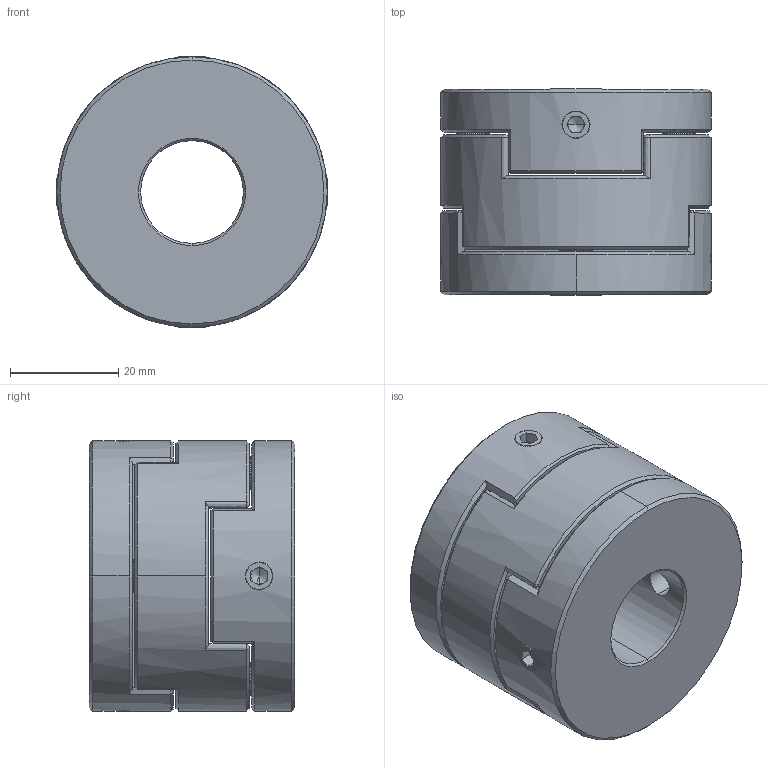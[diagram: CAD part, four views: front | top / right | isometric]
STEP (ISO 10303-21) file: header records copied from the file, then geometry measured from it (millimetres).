
FILE_DESCRIPTION (( 'STEP AP203' ), '1' );
FILE_NAME ('LZ-D-D50L38-19-22.STEP', '2021-10-30T05:52:15', ( '' ), ( '' ), 'SwSTEP 2.0', 'SolidWorks 2018', '' );
FILE_SCHEMA (( 'CONFIG_CONTROL_DESIGN' ));
Length unit declared in the file: millimetre
Products named in the file (1): LZ-D-D50L38-19-22
Bounding box: 50 x 38 x 50 mm (x, y, z)
Volume: 58882.7 mm3; surface area: 18269.1 mm2
Topology: 1 solids, 1 shells, 222 faces, 546 edges, 326 vertices
Faces by surface type: plane 88, bspline 54, cone 54, cylinder 26
Entity records: 7518 total; most frequent: CARTESIAN_POINT 2756, ORIENTED_EDGE 1076, DIRECTION 798, EDGE_CURVE 538, VERTEX_POINT 326, AXIS2_PLACEMENT_3D 289, EDGE_LOOP 248, FACE_OUTER_BOUND 222
